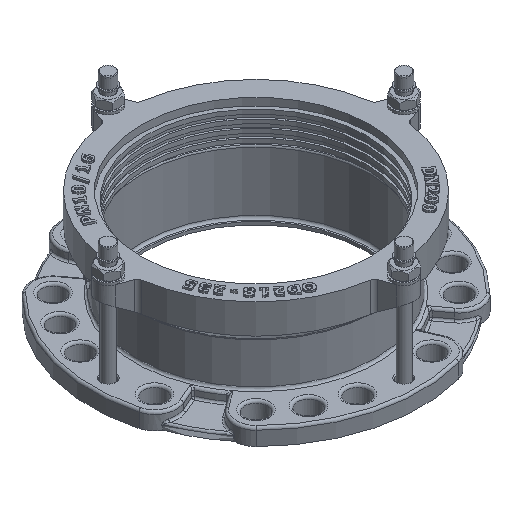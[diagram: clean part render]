
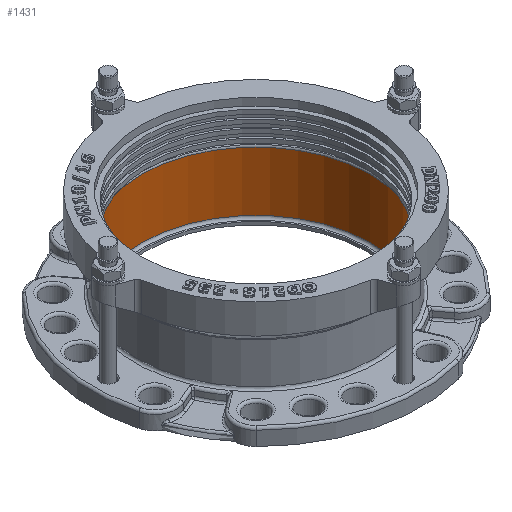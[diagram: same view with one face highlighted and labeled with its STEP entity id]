
A CAD part, isometric view. The second image highlights one B-rep face of the part: STEP entity #1431.
In plain terms, the highlighted cylindrical face has radius 117.5 mm (diameter 235 mm), a full revolution.
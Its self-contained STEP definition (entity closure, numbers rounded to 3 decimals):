
#1431=ADVANCED_FACE('',(#8725,#8727),#8729,.F.);
#8725=FACE_OUTER_BOUND('',#8726,.T.);
#8726=EDGE_LOOP('',(#16243));
#8727=FACE_OUTER_BOUND('',#8728,.T.);
#8728=EDGE_LOOP('',(#16244));
#8729=CYLINDRICAL_SURFACE('',#8730,117.5);
#8730=AXIS2_PLACEMENT_3D('',#8731,#8732,#8733);
#8731=CARTESIAN_POINT('',(0.,0.,3.));
#8732=DIRECTION('',(0.,0.,1.));
#8733=DIRECTION('',(-1.,0.,0.));
#16243=ORIENTED_EDGE('',*,*,#21471,.F.);
#16244=ORIENTED_EDGE('',*,*,#21464,.T.);
#21464=EDGE_CURVE('',#24221,#24221,#24222,.F.);
#21471=EDGE_CURVE('',#24230,#24230,#24231,.T.);
#24221=VERTEX_POINT('',#32734);
#24222=CIRCLE('',#32735,117.5);
#24230=VERTEX_POINT('',#32764);
#24231=CIRCLE('',#32765,117.5);
#32734=CARTESIAN_POINT('',(0.,117.5,5.5));
#32735=AXIS2_PLACEMENT_3D('',#32736,#32737,#32738);
#32736=CARTESIAN_POINT('',(0.,0.,5.5));
#32737=DIRECTION('',(0.,0.,1.));
#32738=DIRECTION('',(0.,1.,0.));
#32764=CARTESIAN_POINT('',(0.,117.5,66.25));
#32765=AXIS2_PLACEMENT_3D('',#32766,#32767,#32768);
#32766=CARTESIAN_POINT('',(0.,0.,66.25));
#32767=DIRECTION('',(0.,0.,-1.));
#32768=DIRECTION('',(0.,1.,0.));
